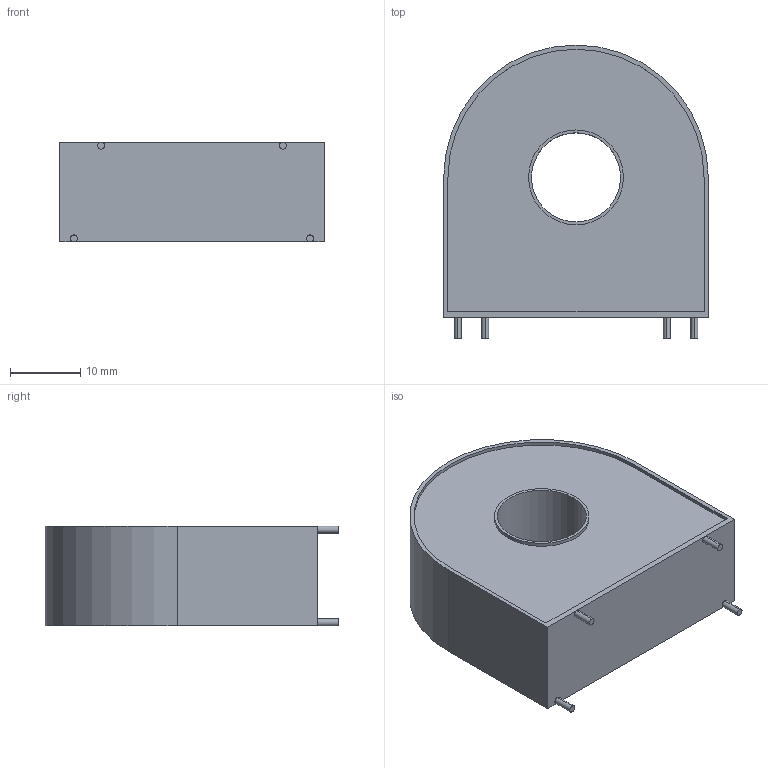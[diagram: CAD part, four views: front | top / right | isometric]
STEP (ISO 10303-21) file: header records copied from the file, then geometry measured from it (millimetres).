
FILE_DESCRIPTION (( 'STEP AP214' ), '1' );
FILE_NAME ('CT-P100.STEP', '2020-08-01T17:33:15', ( '' ), ( '' ), 'SwSTEP 2.0', 'SolidWorks 2015', '' );
FILE_SCHEMA (( 'AUTOMOTIVE_DESIGN' ));
Length unit declared in the file: millimetre
Products named in the file (1): CT-P100
Bounding box: 37.7 x 41.85 x 14.24 mm (x, y, z)
Volume: 16304.4 mm3; surface area: 5006.7 mm2
Topology: 1 solids, 1 shells, 30 faces, 68 edges, 44 vertices
Faces by surface type: plane 16, cylinder 14
Entity records: 1044 total; most frequent: DIRECTION 162, CARTESIAN_POINT 143, ORIENTED_EDGE 136, EDGE_CURVE 68, AXIS2_PLACEMENT_3D 63, VERTEX_POINT 44, LINE 36, EDGE_LOOP 36
